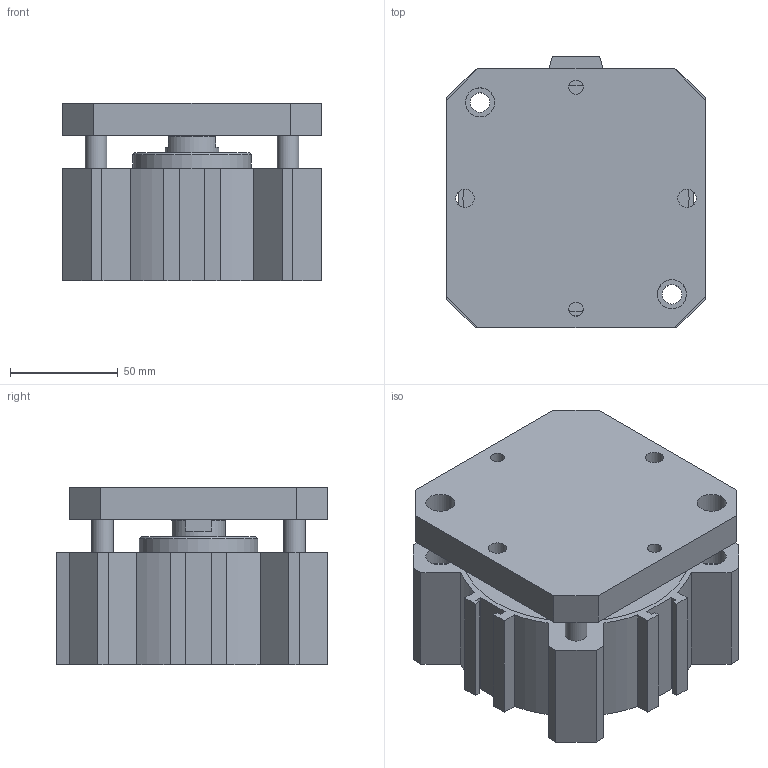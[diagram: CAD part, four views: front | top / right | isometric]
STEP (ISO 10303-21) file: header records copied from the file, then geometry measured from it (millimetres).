
FILE_DESCRIPTION(/* description */ (''),/* implementation_level */ '2;1');
FILE_NAME(/* name */ 'I:\Area Tecnica\Disegni\VARIE-3D\Componenti\1500\Ø100\15##_100_####_#\1501_100_0005_AR.stp',/* time_stamp */ '2016-08-24T15:09:00+02:00',/* author */ ('Maniean1'),/* organization */ (''),/* preprocessor_version */ 'ST-DEVELOPER v15.2',/* originating_system */ 'Autodesk Inventor 2014',/* authorisation */ '');
FILE_SCHEMA (('AUTOMOTIVE_DESIGN { 1 0 10303 214 3 1 1 }'));
Length unit declared in the file: millimetre
Products named in the file (3): C_1501_100_0005_AR; S_1501_100_0005_AR; 1501_100_0005_AR
Bounding box: 120 x 126 x 82.5 mm (x, y, z)
Volume: 769355.9 mm3; surface area: 153682.9 mm2
Topology: 2 solids, 2 shells, 139 faces, 342 edges, 229 vertices
Faces by surface type: plane 94, cylinder 40, cone 5
Full cylindrical faces by diameter (mm): 6.647 x2, 8.5 x2, 9 x4, 10 x4, 13.5 x10, 14.95 x2, 25 x2, 55 x2, 100 x2, 105 x2
Entity records: 3978 total; most frequent: CARTESIAN_POINT 674, DIRECTION 672, ORIENTED_EDGE 600, EDGE_CURVE 300, AXIS2_PLACEMENT_3D 232, VERTEX_POINT 222, EDGE_LOOP 216, LINE 208
